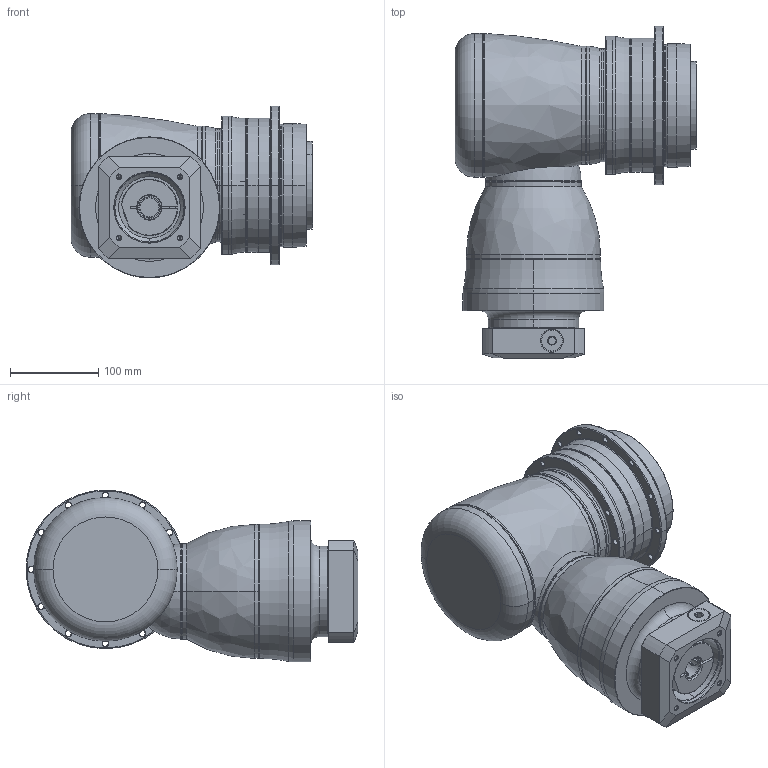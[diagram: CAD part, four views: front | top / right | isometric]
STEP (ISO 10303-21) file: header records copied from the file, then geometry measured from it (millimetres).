
FILE_DESCRIPTION((''),'2;1');
FILE_NAME('AHKB140_3ST_24-P0409500101_ASM','2016-12-13T',('d01943'),(''),'PRO/ENGINEER BY PARAMETRIC TECHNOLOGY CORPORATION, 2008410','PRO/ENGINEER BY PARAMETRIC TECHNOLOGY CORPORATION, 2008410','');
FILE_SCHEMA(('CONFIG_CONTROL_DESIGN'));
Length unit declared in the file: millimetre
Products named in the file (12): P1008500002; P1802500011; P0278500003; P0359500002; P1315500001; P1007500001; P1317500101; P0409500101; P0503500010; P0912401001; 21711418017; AHKB140_3ST_24-P0409500101_ASM
Assembly tree (11 placements, depth 2):
  AHKB140_3ST_24-P0409500101_ASM
    P1008500002
    P1802500011
    P0278500003
    P0359500002
    P1315500001
    P1007500001
    P1317500101
    P0409500101
    P0503500010
    P0912401001
    21711418017
Bounding box: 274.5 x 376.5 x 195 mm (x, y, z)
Volume: 5454607.6 mm3; surface area: 660429.1 mm2
Topology: 12 solids, 12 shells, 932 faces, 2091 edges, 1197 vertices
Faces by surface type: cylinder 345, cone 310, plane 126, torus 124, bspline 25, sphere 2
Entity records: 30771 total; most frequent: CARTESIAN_POINT 9617, DIRECTION 4881, ORIENTED_EDGE 3994, AXIS2_PLACEMENT_3D 2078, EDGE_CURVE 1997, VERTEX_POINT 1197, CIRCLE 1148, EDGE_LOOP 1102
